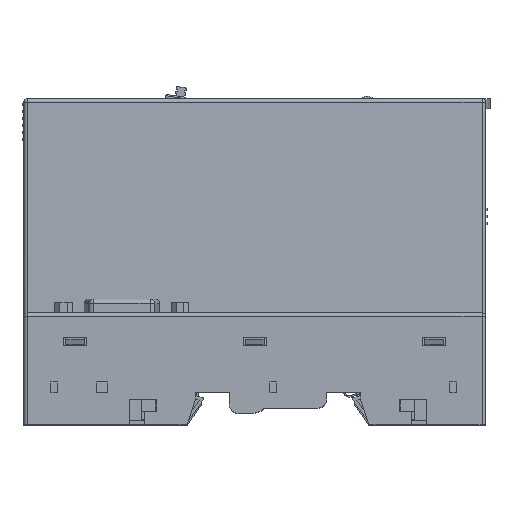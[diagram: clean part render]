
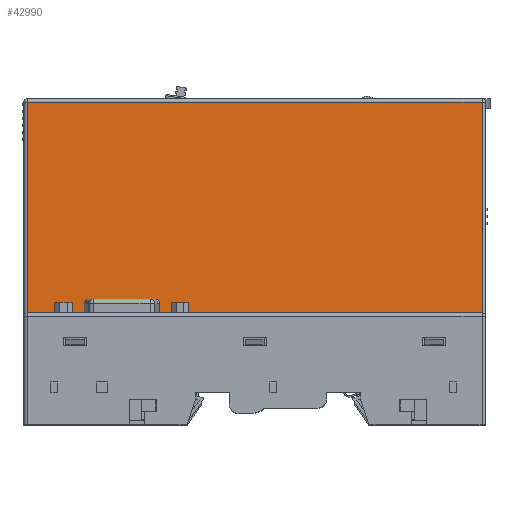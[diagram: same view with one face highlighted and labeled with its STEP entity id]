
A CAD part, top view. The second image highlights one B-rep face of the part: STEP entity #42990.
In plain terms, the highlighted planar face has unit normal (0, 0.018, 1).
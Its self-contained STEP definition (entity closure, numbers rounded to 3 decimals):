
#12248=DIRECTION('',(0.,-1.,0.017));
#12249=VECTOR('',#12248,45.27);
#12250=CARTESIAN_POINT('',(48.75,69.263,29.175));
#12251=LINE('',#12250,#12249);
#12252=DIRECTION('',(-1.,0.,0.));
#12253=VECTOR('',#12252,97.5);
#12254=CARTESIAN_POINT('',(48.75,24.,29.965));
#12255=LINE('',#12254,#12253);
#12256=DIRECTION('',(0.,1.,-0.017));
#12257=VECTOR('',#12256,45.27);
#12258=CARTESIAN_POINT('',(-48.75,24.,29.965));
#12259=LINE('',#12258,#12257);
#12260=DIRECTION('',(1.,0.,0.));
#12261=VECTOR('',#12260,97.5);
#12262=CARTESIAN_POINT('',(-48.75,69.263,29.175));
#12263=LINE('',#12262,#12261);
#22825=CARTESIAN_POINT('',(48.75,24.,29.965));
#22827=VERTEX_POINT('',#22825);
#22828=CARTESIAN_POINT('',(48.75,69.263,29.175));
#22829=VERTEX_POINT('',#22828);
#22834=CARTESIAN_POINT('',(-48.75,69.263,29.175));
#22835=VERTEX_POINT('',#22834);
#22836=CARTESIAN_POINT('',(-48.75,24.,29.965));
#22837=VERTEX_POINT('',#22836);
#42977=CARTESIAN_POINT('',(-51.102,22.,30.));
#42978=DIRECTION('',(0.,-0.017,-1.));
#42979=DIRECTION('',(-1.,0.,0.));
#42980=AXIS2_PLACEMENT_3D('',#42977,#42978,#42979);
#42981=PLANE('',#42980);
#42983=ORIENTED_EDGE('',*,*,#42982,.T.);
#42984=ORIENTED_EDGE('',*,*,#25958,.T.);
#42986=ORIENTED_EDGE('',*,*,#42985,.T.);
#42987=ORIENTED_EDGE('',*,*,#42970,.T.);
#42988=EDGE_LOOP('',(#42983,#42984,#42986,#42987));
#42989=FACE_OUTER_BOUND('',#42988,.F.);
#42990=ADVANCED_FACE('',(#42989),#42981,.F.);
#25958=EDGE_CURVE('',#22827,#22837,#12255,.T.);
#42970=EDGE_CURVE('',#22835,#22829,#12263,.T.);
#42982=EDGE_CURVE('',#22829,#22827,#12251,.T.);
#42985=EDGE_CURVE('',#22837,#22835,#12259,.T.);
